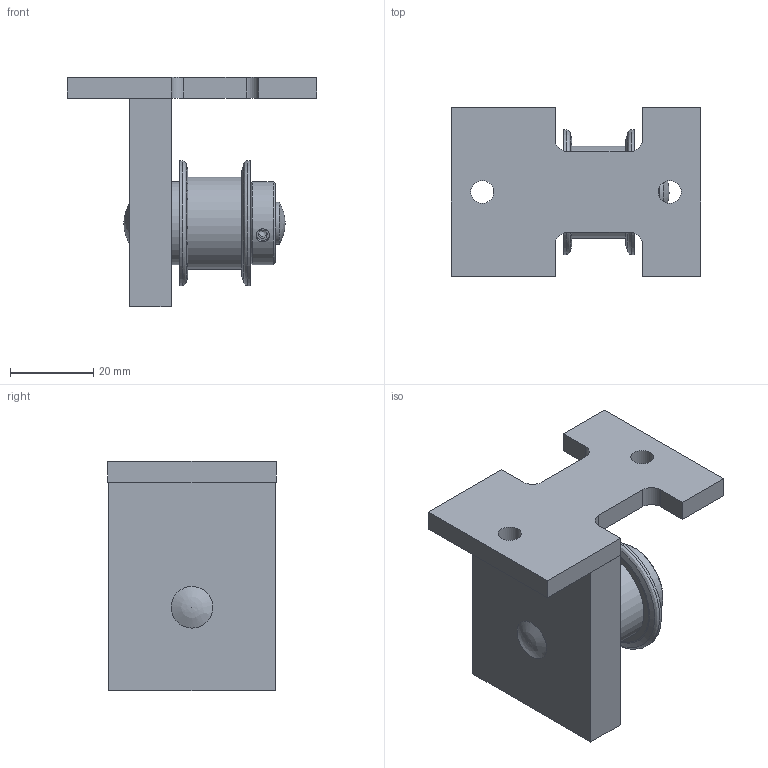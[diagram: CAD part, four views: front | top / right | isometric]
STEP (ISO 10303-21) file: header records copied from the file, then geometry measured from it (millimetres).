
FILE_DESCRIPTION((''),'2;1');
FILE_NAME('K:\Daten\wbrBauteil3.stp','2011-11-10T11:05:13',('kamp'),(''),'Autodesk Inventor 2008','Autodesk Inventor 2008','');
FILE_SCHEMA(('AUTOMOTIVE_DESIGN { 1 0 10303 214 1 1 1 1 }'));
Length unit declared in the file: millimetre
Products named in the file (1): Bauteil3
Bounding box: 60 x 40.4 x 55 mm (x, y, z)
Volume: 40074 mm3; surface area: 13417.1 mm2
Topology: 1 solids, 1 shells, 55 faces, 139 edges, 92 vertices
Faces by surface type: plane 30, cylinder 10, bspline 9, cone 6
Full cylindrical faces by diameter (mm): 10 x1, 20 x2, 22.11 x1, 30 x1, 30.11 x1
Entity records: 1805 total; most frequent: CARTESIAN_POINT 548, DIRECTION 228, ORIENTED_EDGE 212, EDGE_CURVE 106, EDGE_LOOP 86, AXIS2_PLACEMENT_3D 82, VERTEX_POINT 80, VECTOR 64
